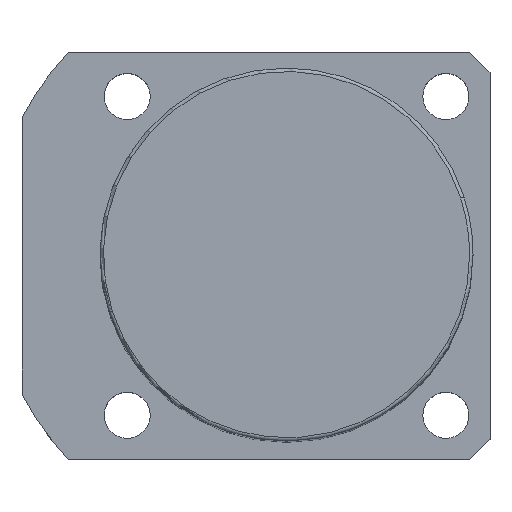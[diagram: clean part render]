
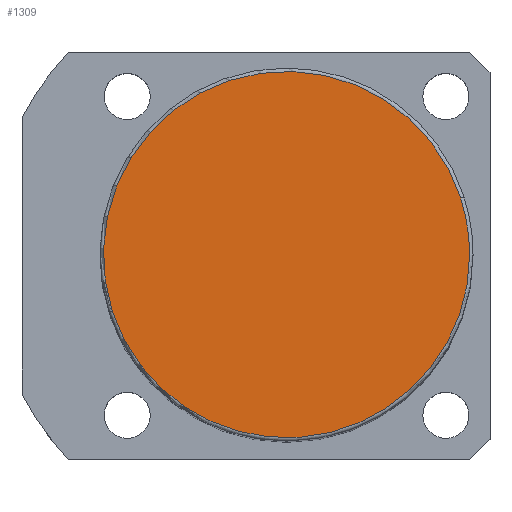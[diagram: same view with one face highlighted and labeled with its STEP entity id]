
A CAD part, top view. The second image highlights one B-rep face of the part: STEP entity #1309.
In plain terms, the highlighted planar face has unit normal (0, 0, 1).
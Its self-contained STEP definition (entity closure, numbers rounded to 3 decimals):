
#1275=CARTESIAN_POINT('',(27.0,0.0,121.0));
#1276=VERTEX_POINT('',#1275);
#1277=CARTESIAN_POINT('',(25.679,8.343,121.0));
#1278=VERTEX_POINT('',#1277);
#1279=CARTESIAN_POINT('',(0.0,0.0,121.0));
#1280=DIRECTION('',(0.0,0.0,1.0));
#1281=DIRECTION('',(1.0,0.0,0.0));
#1282=AXIS2_PLACEMENT_3D('',#1279,#1280,#1281);
#1283=CIRCLE('',#1282,27.0);
#1284=EDGE_CURVE('no 1819',#1276,#1278,#1283,.T.);
#1285=ORIENTED_EDGE('',*,*,#1284,.T.);
#1286=CARTESIAN_POINT('',(-25.679,-8.343,121.0));
#1287=VERTEX_POINT('',#1286);
#1288=CARTESIAN_POINT('',(0.0,0.0,121.0));
#1289=DIRECTION('',(0.0,0.0,1.0));
#1290=DIRECTION('',(1.0,0.0,0.0));
#1291=AXIS2_PLACEMENT_3D('',#1288,#1289,#1290);
#1292=CIRCLE('',#1291,27.0);
#1293=EDGE_CURVE('no 1825',#1278,#1287,#1292,.T.);
#1294=ORIENTED_EDGE('',*,*,#1293,.T.);
#1295=CARTESIAN_POINT('',(0.0,0.0,121.0));
#1296=DIRECTION('',(0.0,0.0,1.0));
#1297=DIRECTION('',(1.0,0.0,0.0));
#1298=AXIS2_PLACEMENT_3D('',#1295,#1296,#1297);
#1299=CIRCLE('',#1298,27.0);
#1300=EDGE_CURVE('no 1829',#1287,#1276,#1299,.T.);
#1301=ORIENTED_EDGE('',*,*,#1300,.T.);
#1302=EDGE_LOOP('',(#1285,#1294,#1301));
#1303=FACE_OUTER_BOUND('',#1302,.T.);
#1304=CARTESIAN_POINT('',(0.0,0.0,121.0));
#1305=DIRECTION('',(0.0,0.0,1.0));
#1306=DIRECTION('',(1.0,0.0,0.0));
#1307=AXIS2_PLACEMENT_3D('',#1304,#1305,#1306);
#1308=PLANE('',#1307);
#1309=ADVANCED_FACE('no 1810',(#1303),#1308,.T.);
